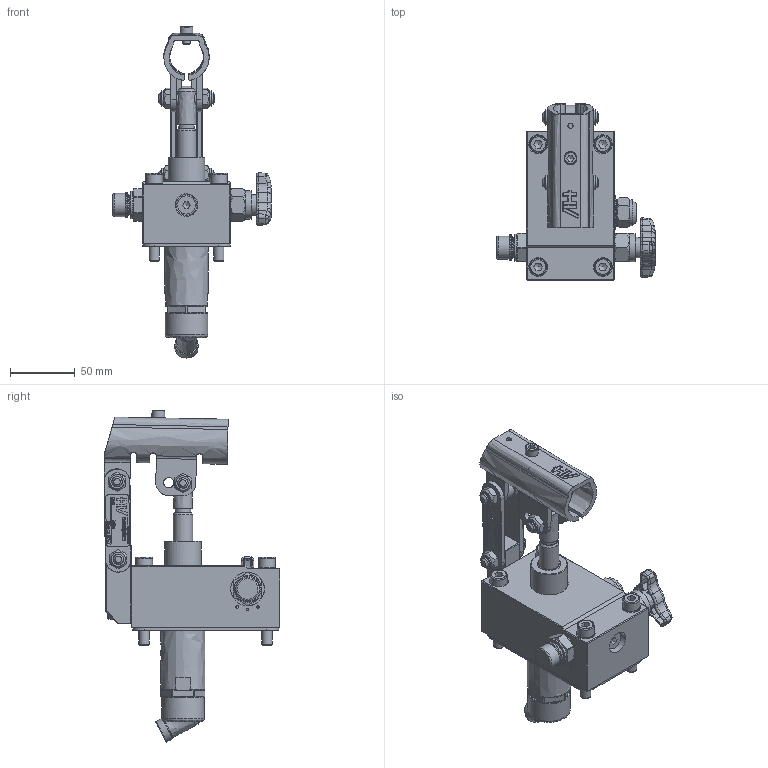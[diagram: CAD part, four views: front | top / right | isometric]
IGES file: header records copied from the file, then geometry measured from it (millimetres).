
Global section: file name: No Iges File Name specified; native system: Autodesk Inventor 2013; preprocessor: AutoDesk Inventor Iges Exporter R2013; author: christian.scardovi; date: 20240228.081805; units: millimetre
Bounding box: 122.5 x 135.99 x 256.81 mm (x, y, z)
Volume: 538069.4 mm3; surface area: 119230.9 mm2
Topology: 1 solids, 1 shells, 1612 faces, 3983 edges, 2496 vertices
Faces by surface type: bspline 1612
